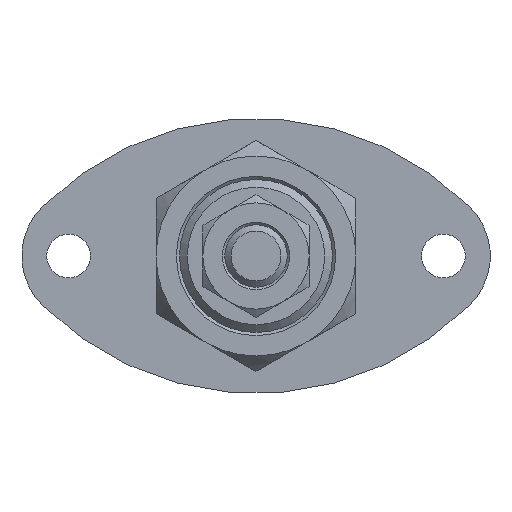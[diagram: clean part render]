
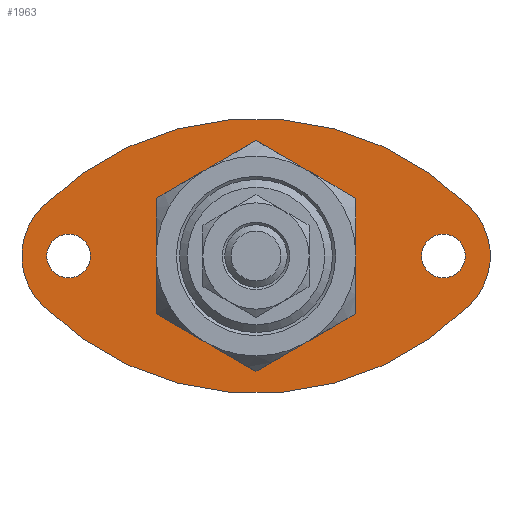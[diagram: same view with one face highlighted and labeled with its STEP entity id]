
A CAD part, front view. The second image highlights one B-rep face of the part: STEP entity #1963.
In plain terms, the highlighted planar face has unit normal (0, -1, 0).
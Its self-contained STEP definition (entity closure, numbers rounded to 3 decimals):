
#205=PLANE('',#2161);
#475=ORIENTED_EDGE('',*,*,#700,.T.);
#476=ORIENTED_EDGE('',*,*,#701,.T.);
#477=ORIENTED_EDGE('',*,*,#702,.T.);
#478=ORIENTED_EDGE('',*,*,#699,.T.);
#479=ORIENTED_EDGE('',*,*,#690,.T.);
#480=ORIENTED_EDGE('',*,*,#694,.T.);
#481=ORIENTED_EDGE('',*,*,#697,.T.);
#690=EDGE_CURVE('',#830,#829,#923,.T.);
#694=EDGE_CURVE('',#829,#832,#925,.T.);
#697=EDGE_CURVE('',#832,#834,#927,.T.);
#699=EDGE_CURVE('',#834,#830,#929,.T.);
#700=EDGE_CURVE('',#835,#835,#930,.T.);
#701=EDGE_CURVE('',#836,#836,#931,.T.);
#702=EDGE_CURVE('',#837,#837,#932,.T.);
#829=VERTEX_POINT('',#2991);
#830=VERTEX_POINT('',#2993);
#832=VERTEX_POINT('',#2999);
#834=VERTEX_POINT('',#3005);
#835=VERTEX_POINT('',#3012);
#836=VERTEX_POINT('',#3014);
#837=VERTEX_POINT('',#3016);
#923=CIRCLE('',#2151,11.);
#925=CIRCLE('',#2154,48.42);
#927=CIRCLE('',#2157,11.);
#929=CIRCLE('',#2160,48.42);
#930=CIRCLE('',#2162,3.5);
#931=CIRCLE('',#2163,3.5);
#932=CIRCLE('',#2164,13.);
#1060=EDGE_LOOP('',(#475));
#1061=EDGE_LOOP('',(#476));
#1062=EDGE_LOOP('',(#477));
#1063=EDGE_LOOP('',(#478,#479,#480,#481));
#1210=FACE_BOUND('',#1060,.T.);
#1211=FACE_BOUND('',#1061,.T.);
#1212=FACE_BOUND('',#1062,.T.);
#1213=FACE_BOUND('',#1063,.T.);
#1963=ADVANCED_FACE('',(#1210,#1211,#1212,#1213),#205,.T.);
#2151=AXIS2_PLACEMENT_3D('',#2992,#2502,#2503);
#2154=AXIS2_PLACEMENT_3D('',#3000,#2510,#2511);
#2157=AXIS2_PLACEMENT_3D('',#3006,#2517,#2518);
#2160=AXIS2_PLACEMENT_3D('',#3009,#2523,#2524);
#2161=AXIS2_PLACEMENT_3D('',#3010,#2525,#2526);
#2162=AXIS2_PLACEMENT_3D('',#3011,#2527,#2528);
#2163=AXIS2_PLACEMENT_3D('',#3013,#2529,#2530);
#2164=AXIS2_PLACEMENT_3D('',#3015,#2531,#2532);
#2502=DIRECTION('',(0.,-1.,0.));
#2503=DIRECTION('',(1.,0.,0.));
#2510=DIRECTION('',(0.,-1.,0.));
#2511=DIRECTION('',(1.,0.,0.));
#2517=DIRECTION('',(0.,-1.,0.));
#2518=DIRECTION('',(1.,0.,0.));
#2523=DIRECTION('',(0.,-1.,0.));
#2524=DIRECTION('',(1.,0.,0.));
#2525=DIRECTION('',(0.,-1.,0.));
#2526=DIRECTION('',(0.,0.,-1.));
#2527=DIRECTION('',(0.,1.,0.));
#2528=DIRECTION('',(1.,0.,0.));
#2529=DIRECTION('',(0.,1.,0.));
#2530=DIRECTION('',(1.,0.,0.));
#2531=DIRECTION('',(0.,1.,0.));
#2532=DIRECTION('',(1.,0.,0.));
#2991=CARTESIAN_POINT('',(34.29,-4.5,7.766));
#2992=CARTESIAN_POINT('',(26.5,-4.5,0.));
#2993=CARTESIAN_POINT('',(34.29,-4.5,-7.766));
#2999=CARTESIAN_POINT('',(-34.29,-4.5,7.766));
#3000=CARTESIAN_POINT('',(0.,-4.5,-26.42));
#3005=CARTESIAN_POINT('',(-34.29,-4.5,-7.766));
#3006=CARTESIAN_POINT('',(-26.5,-4.5,0.));
#3009=CARTESIAN_POINT('',(0.,-4.5,26.42));
#3010=CARTESIAN_POINT('',(13.25,-4.5,-13.21));
#3011=CARTESIAN_POINT('',(30.,-4.5,0.));
#3012=CARTESIAN_POINT('',(33.5,-4.5,0.));
#3013=CARTESIAN_POINT('',(-30.,-4.5,0.));
#3014=CARTESIAN_POINT('',(-26.5,-4.5,0.));
#3015=CARTESIAN_POINT('',(0.,-4.5,0.));
#3016=CARTESIAN_POINT('',(13.,-4.5,0.));
